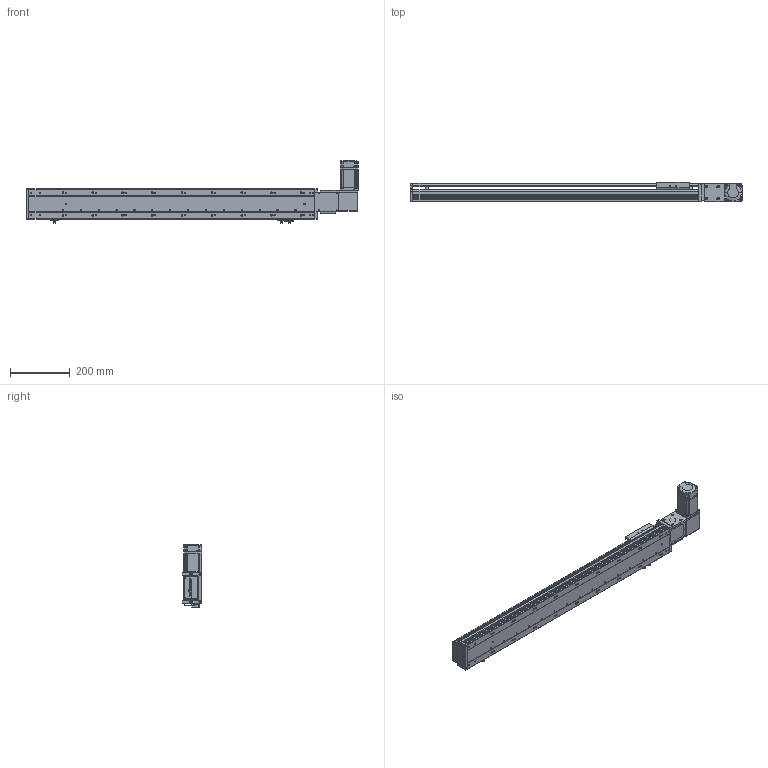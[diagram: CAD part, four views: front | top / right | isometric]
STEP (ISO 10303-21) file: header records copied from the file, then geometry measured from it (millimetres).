
FILE_DESCRIPTION (( 'STEP AP203' ), '1' );
FILE_NAME ('RY100-T-300-RK.SLDASM_750.step', '2024-04-25T08:22:12', ( '盈信电脑' ), ( '东莞市道滘镇水果街19号' ), 'SwSTEP 2.0', 'SolidWorks 2016', '' );
FILE_SCHEMA (( 'CONFIG_CONTROL_DESIGN' ));
Length unit declared in the file: millimetre
Products named in the file (15): RY100-T-300-RK倰第奻裔_750; RY100綴裔啣; 覜茼ん672; 1; 侂狟200W萇儂; RY100-T肮祭謫臏賑輸; RY100-T粣創揤踡裔; RY100-T-300-RK.SLDASM_750; RY100-T左右折电机安装板; RY100-T肮祭謫翋盓傅釱; RY100俋离覜茼え; RY100-T翋肮祭謫裔啣2; RY80-T肮祭謫俋欶; 滅袉蝶18-10; RY100-T-300-RK倰第菁釱_750
Assembly tree (18 placements, depth 3):
  RY100-T-300-RK.SLDASM_750
    RY100-T-300-RK倰第菁釱_750
    RY100-T-300-RK倰第奻裔_750
    RY100-T肮祭謫臏賑輸
    RY100綴裔啣
    覜茼ん672  x3
    RY100俋离覜茼え
    RY100-T肮祭謫翋盓傅釱
    RY100-T左右折电机安装板
    侂狟200W萇儂
      1
    RY100-T粣創揤踡裔
    滅袉蝶18-10  x2
    RY100-T翋肮祭謫裔啣2  x2
    RY80-T肮祭謫俋欶
Bounding box: 1114 x 66 x 209.7 mm (x, y, z)
Volume: 2223236.3 mm3; surface area: 902774.6 mm2
Topology: 17 solids, 17 shells, 2217 faces, 6187 edges, 4023 vertices
Faces by surface type: plane 1197, cylinder 807, cone 135, bspline 78
Entity records: 71271 total; most frequent: CARTESIAN_POINT 17409, ORIENTED_EDGE 11110, DIRECTION 10535, EDGE_CURVE 5555, VERTEX_POINT 3659, LINE 3571, VECTOR 3571, AXIS2_PLACEMENT_3D 3482
